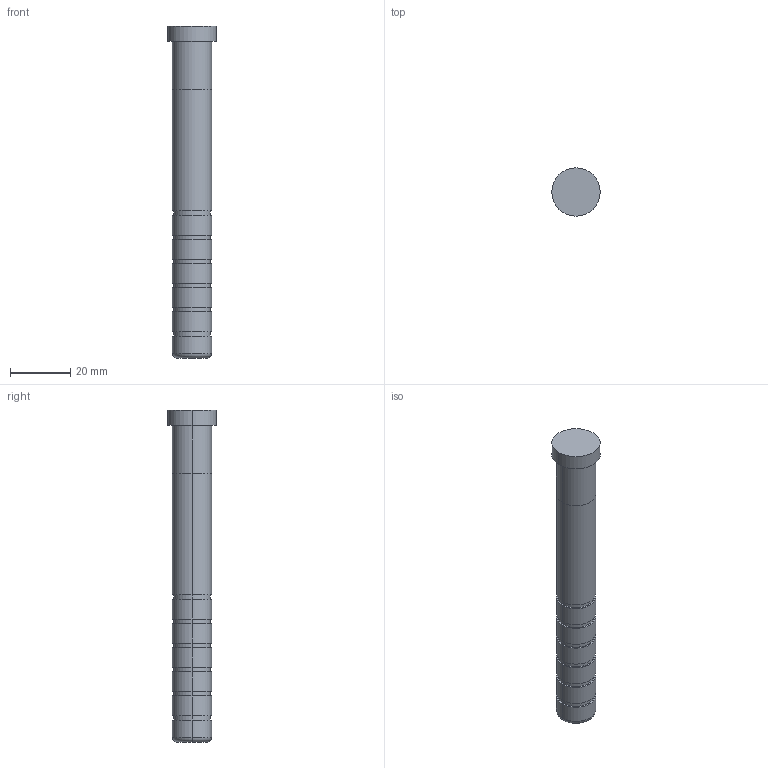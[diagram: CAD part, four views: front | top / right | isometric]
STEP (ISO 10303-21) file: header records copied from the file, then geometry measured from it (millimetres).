
FILE_DESCRIPTION(/* description */ (''),/* implementation_level */ '2;1');
FILE_NAME(/* name */ '3d_sgoh13-110_05221_r00.stp',/* time_stamp */ '2011-01-10T14:11:10+09:00',/* author */ ('MISUMI'),/* organization */ (''),/* preprocessor_version */ 'ST-DEVELOPER v11',/* originating_system */ 'UGS - NX 5.0',/* authorisation */ '');
FILE_SCHEMA (('CONFIG_CONTROL_DESIGN'));
Length unit declared in the file: millimetre
Products named in the file (1): 3d_sgoh13-110_05221_r00
Bounding box: 16 x 16 x 110 mm (x, y, z)
Volume: 14747.3 mm3; surface area: 5117.4 mm2
Topology: 1 solids, 1 shells, 49 faces, 96 edges, 62 vertices
Faces by surface type: cylinder 30, plane 15, torus 4
Entity records: 1374 total; most frequent: DIRECTION 262, CARTESIAN_POINT 208, ORIENTED_EDGE 192, AXIS2_PLACEMENT_3D 116, EDGE_CURVE 96, CIRCLE 66, EDGE_LOOP 62, VERTEX_POINT 62
